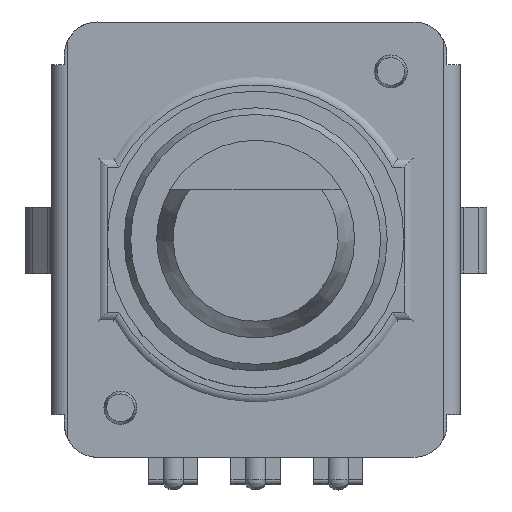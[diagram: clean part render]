
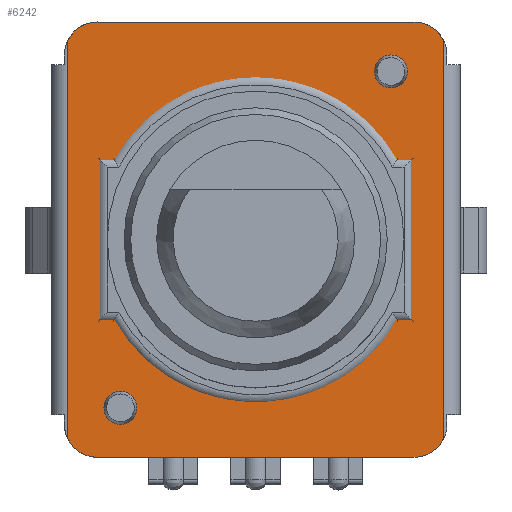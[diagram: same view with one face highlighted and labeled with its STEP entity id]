
A CAD part, top view. The second image highlights one B-rep face of the part: STEP entity #6242.
In plain terms, the highlighted planar face has unit normal (0, 0, 1).
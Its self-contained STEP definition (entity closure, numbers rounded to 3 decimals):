
#243=PLANE($,#6726);
#533=FACE_OUTER_BOUND($,#844,.T.);
#844=EDGE_LOOP($,(#5281,#5282,#5283,#5284,#5285,#5286,#5287,#5288));
#1484=LINE($,#10350,#2186);
#1486=LINE($,#10369,#2188);
#1490=LINE($,#10390,#2192);
#1491=LINE($,#10395,#2193);
#2186=VECTOR($,#8163,12.072);
#2188=VECTOR($,#8167,12.072);
#2192=VECTOR($,#8179,9.6);
#2193=VECTOR($,#8184,9.6);
#2444=CIRCLE($,#6727,1.);
#2445=CIRCLE($,#6728,1.);
#2446=CIRCLE($,#6729,1.);
#2447=CIRCLE($,#6730,1.);
#2998=VERTEX_POINT($,#10342);
#2999=VERTEX_POINT($,#10349);
#3002=VERTEX_POINT($,#10361);
#3003=VERTEX_POINT($,#10368);
#3009=VERTEX_POINT($,#10387);
#3010=VERTEX_POINT($,#10389);
#3011=VERTEX_POINT($,#10392);
#3012=VERTEX_POINT($,#10394);
#3844=EDGE_CURVE($,#2998,#2999,#1484,.T.);
#3848=EDGE_CURVE($,#3002,#3003,#1486,.T.);
#3855=EDGE_CURVE($,#3009,#2998,#2444,.T.);
#3856=EDGE_CURVE($,#3010,#3009,#1490,.T.);
#3857=EDGE_CURVE($,#3003,#3010,#2445,.T.);
#3858=EDGE_CURVE($,#3011,#3002,#2446,.T.);
#3859=EDGE_CURVE($,#3012,#3011,#1491,.T.);
#3860=EDGE_CURVE($,#2999,#3012,#2447,.T.);
#5281=ORIENTED_EDGE($,*,*,#3844,.F.);
#5282=ORIENTED_EDGE($,*,*,#3855,.F.);
#5283=ORIENTED_EDGE($,*,*,#3856,.F.);
#5284=ORIENTED_EDGE($,*,*,#3857,.F.);
#5285=ORIENTED_EDGE($,*,*,#3848,.F.);
#5286=ORIENTED_EDGE($,*,*,#3858,.F.);
#5287=ORIENTED_EDGE($,*,*,#3859,.F.);
#5288=ORIENTED_EDGE($,*,*,#3860,.F.);
#6242=ADVANCED_FACE($,(#533),#243,.T.);
#6726=AXIS2_PLACEMENT_3D($,#10386,#8175,#8176);
#6727=AXIS2_PLACEMENT_3D($,#10388,#8177,#8178);
#6728=AXIS2_PLACEMENT_3D($,#10391,#8180,#8181);
#6729=AXIS2_PLACEMENT_3D($,#10393,#8182,#8183);
#6730=AXIS2_PLACEMENT_3D($,#10396,#8185,#8186);
#8163=DIRECTION($,(0.,1.,0.));
#8167=DIRECTION($,(0.,-1.,0.));
#8175=DIRECTION('center_axis',(0.,0.,
1.));
#8176=DIRECTION('ref_axis',(1.,0.,0.));
#8177=DIRECTION('center_axis',(0.,0.,
-1.));
#8178=DIRECTION('ref_axis',(-0.707,-0.707,0.));
#8179=DIRECTION($,(-1.,0.,0.));
#8180=DIRECTION('center_axis',(0.,0.,
-1.));
#8181=DIRECTION('ref_axis',(0.707,-0.707,0.));
#8182=DIRECTION('center_axis',(0.,0.,
-1.));
#8183=DIRECTION('ref_axis',(0.707,0.707,0.));
#8184=DIRECTION($,(1.,0.,0.));
#8185=DIRECTION('center_axis',(0.,0.,
-1.));
#8186=DIRECTION('ref_axis',(-0.707,0.707,0.));
#10342=CARTESIAN_POINT('',(-3.031,-5.417,2.086));
#10349=CARTESIAN_POINT('',(-3.031,6.654,2.086));
#10350=CARTESIAN_POINT($,(-3.031,0.619,2.086));
#10361=CARTESIAN_POINT('',(8.369,6.654,2.086));
#10368=CARTESIAN_POINT('',(8.369,-5.417,2.086));
#10369=CARTESIAN_POINT($,(8.369,0.619,2.086));
#10386=CARTESIAN_POINT('Origin',(2.669,0.619,2.086));
#10387=CARTESIAN_POINT('',(-2.131,-5.981,2.086));
#10388=CARTESIAN_POINT('Origin',(-2.131,-4.981,2.086));
#10389=CARTESIAN_POINT('',(7.469,-5.981,2.086));
#10390=CARTESIAN_POINT($,(8.469,-5.981,2.086));
#10391=CARTESIAN_POINT('Origin',(7.469,-4.981,2.086));
#10392=CARTESIAN_POINT('',(7.469,7.219,2.086));
#10393=CARTESIAN_POINT('Origin',(7.469,6.219,2.086));
#10394=CARTESIAN_POINT('',(-2.131,7.219,2.086));
#10395=CARTESIAN_POINT($,(-3.131,7.219,2.086));
#10396=CARTESIAN_POINT('Origin',(-2.131,6.219,2.086));
